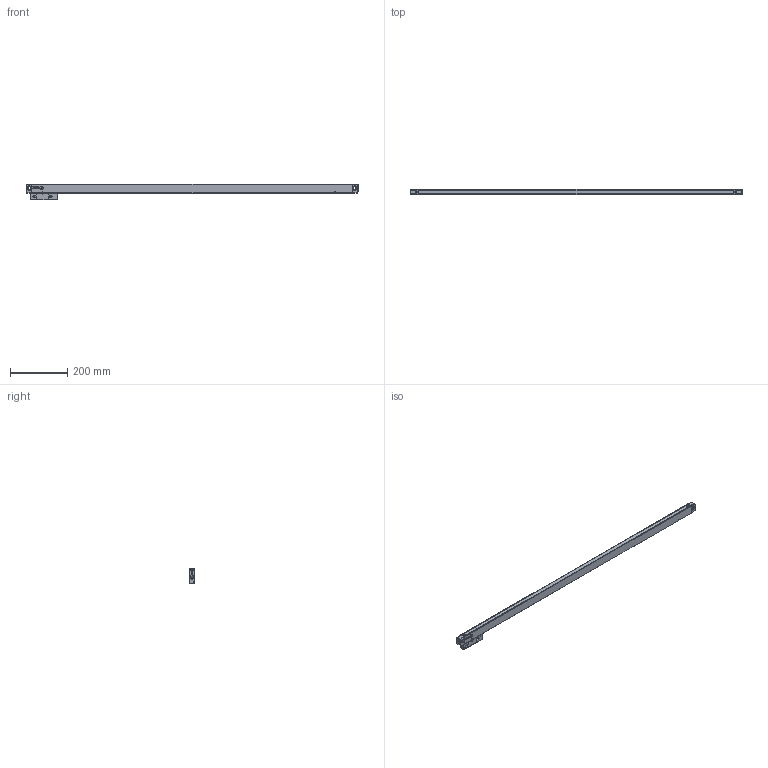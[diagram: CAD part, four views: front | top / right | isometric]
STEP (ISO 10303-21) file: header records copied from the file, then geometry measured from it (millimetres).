
FILE_DESCRIPTION(('Creo Elements/Direct Modeling STEP Export'),'2;1');
FILE_NAME('REGLA_S2-1020-T.stp','2015-05-26T 9:22:35',(''),(''),'Creo Elements/Direct Modeling STEP processor for AP214 (Solid Model)','Creo Elements/Direct Modeling 18.1G 27-Feb-2015 (C) Parametric Technology GmbH','');
FILE_SCHEMA(('AUTOMOTIVE_DESIGN { 1 0 10303 214 1 1 1 1 }'));
Length unit declared in the file: millimetre
Products named in the file (3): REGLA_S-1020-T; CABEZA_ROSCADA_REGLA_S
Assembly tree (2 placements, depth 2):
  REGLA_S-1020-T
    CABEZA_ROSCADA_REGLA_S
    REGLA_S-1020-T
Bounding box: 1158 x 18.3 x 54.3 mm (x, y, z)
Volume: 632657.9 mm3; surface area: 167295 mm2
Topology: 2 solids, 9 shells, 781 faces, 2003 edges, 1289 vertices
Faces by surface type: plane 312, cylinder 267, cone 150, bspline 38, sphere 8, torus 6
Entity records: 28152 total; most frequent: CARTESIAN_POINT 6722, ORIENTED_EDGE 3970, DIRECTION 3424, EDGE_CURVE 1985, VERTEX_POINT 1289, AXIS2_PLACEMENT_3D 1175, VECTOR 1074, LINE 1074
